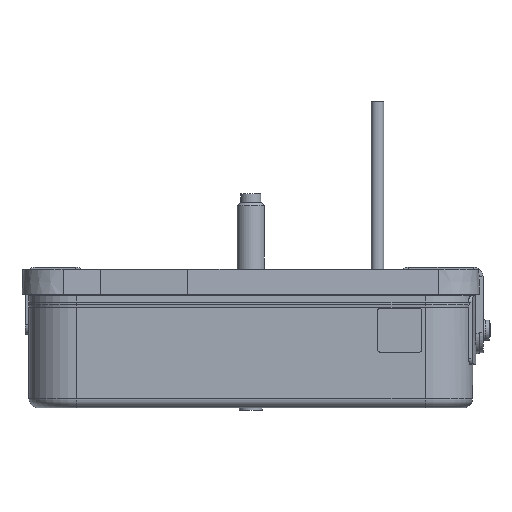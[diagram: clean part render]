
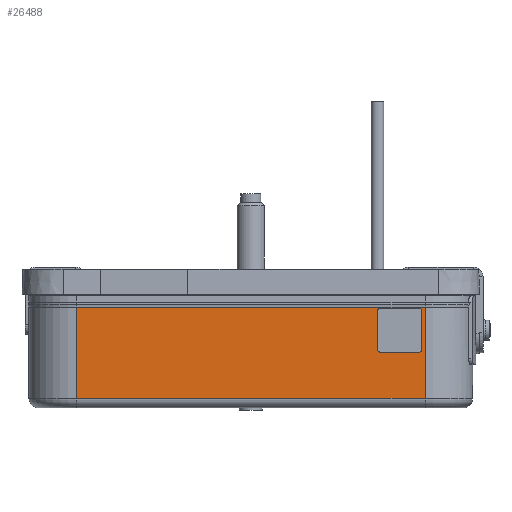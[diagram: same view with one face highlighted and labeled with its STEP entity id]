
A CAD part, left-side view. The second image highlights one B-rep face of the part: STEP entity #26488.
In plain terms, the highlighted planar face has unit normal (-1, 0, 0).
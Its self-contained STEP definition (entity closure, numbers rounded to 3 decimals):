
#1537=FACE_BOUND('',#5088,.T.);
#3025=CIRCLE('',#27604,0.254);
#3027=CIRCLE('',#27608,0.254);
#3029=CIRCLE('',#27612,0.254);
#3031=CIRCLE('',#27616,0.254);
#3637=FACE_OUTER_BOUND('',#5087,.T.);
#5087=EDGE_LOOP('',(#19446,#19447,#19448,#19449));
#5088=EDGE_LOOP('',(#19450,#19451,#19452,#19453,#19454,#19455,#19456,#19457));
#6282=LINE('',#33685,#8885);
#6287=LINE('',#33698,#8890);
#6291=LINE('',#33710,#8894);
#6295=LINE('',#33722,#8898);
#6947=LINE('',#35807,#9550);
#6955=LINE('',#35834,#9558);
#6956=LINE('',#35837,#9559);
#6957=LINE('',#35838,#9560);
#8885=VECTOR('',#28764,10.);
#8890=VECTOR('',#28777,10.);
#8894=VECTOR('',#28789,10.);
#8898=VECTOR('',#28801,10.);
#9550=VECTOR('',#30391,10.);
#9558=VECTOR('',#30423,10.);
#9559=VECTOR('',#30426,10.);
#9560=VECTOR('',#30427,10.);
#11488=VERTEX_POINT('',#33682);
#11489=VERTEX_POINT('',#33684);
#11491=VERTEX_POINT('',#33690);
#11493=VERTEX_POINT('',#33696);
#11495=VERTEX_POINT('',#33702);
#11497=VERTEX_POINT('',#33708);
#11499=VERTEX_POINT('',#33714);
#11501=VERTEX_POINT('',#33720);
#12057=VERTEX_POINT('',#35800);
#12059=VERTEX_POINT('',#35806);
#12066=VERTEX_POINT('',#35832);
#12067=VERTEX_POINT('',#35836);
#13989=EDGE_CURVE('',#11489,#11488,#6282,.T.);
#13993=EDGE_CURVE('',#11488,#11491,#3025,.T.);
#13996=EDGE_CURVE('',#11491,#11493,#6287,.T.);
#13999=EDGE_CURVE('',#11493,#11495,#3027,.T.);
#14002=EDGE_CURVE('',#11495,#11497,#6291,.T.);
#14005=EDGE_CURVE('',#11497,#11499,#3029,.T.);
#14008=EDGE_CURVE('',#11499,#11501,#6295,.T.);
#14010=EDGE_CURVE('',#11501,#11489,#3031,.T.);
#14850=EDGE_CURVE('',#12057,#12059,#6947,.T.);
#14865=EDGE_CURVE('',#12059,#12066,#6955,.T.);
#14866=EDGE_CURVE('',#12067,#12066,#6956,.T.);
#14867=EDGE_CURVE('',#12067,#12057,#6957,.T.);
#19446=ORIENTED_EDGE('',*,*,#14866,.T.);
#19447=ORIENTED_EDGE('',*,*,#14865,.F.);
#19448=ORIENTED_EDGE('',*,*,#14850,.F.);
#19449=ORIENTED_EDGE('',*,*,#14867,.F.);
#19450=ORIENTED_EDGE('',*,*,#13989,.T.);
#19451=ORIENTED_EDGE('',*,*,#13993,.T.);
#19452=ORIENTED_EDGE('',*,*,#13996,.T.);
#19453=ORIENTED_EDGE('',*,*,#13999,.T.);
#19454=ORIENTED_EDGE('',*,*,#14002,.T.);
#19455=ORIENTED_EDGE('',*,*,#14005,.T.);
#19456=ORIENTED_EDGE('',*,*,#14008,.T.);
#19457=ORIENTED_EDGE('',*,*,#14010,.T.);
#25572=PLANE('',#28095);
#26488=ADVANCED_FACE('',(#3637,#1537),#25572,.T.);
#27604=AXIS2_PLACEMENT_3D('',#33692,#28771,#28772);
#27608=AXIS2_PLACEMENT_3D('',#33704,#28783,#28784);
#27612=AXIS2_PLACEMENT_3D('',#33716,#28795,#28796);
#27616=AXIS2_PLACEMENT_3D('',#33725,#28806,#28807);
#28095=AXIS2_PLACEMENT_3D('',#35835,#30424,#30425);
#28764=DIRECTION('',(0.,1.,0.));
#28771=DIRECTION('center_axis',(1.,0.,0.));
#28772=DIRECTION('ref_axis',(0.,0.,1.));
#28777=DIRECTION('',(0.,0.,1.));
#28783=DIRECTION('center_axis',(1.,0.,0.));
#28784=DIRECTION('ref_axis',(0.,-1.,0.));
#28789=DIRECTION('',(0.,-1.,0.));
#28795=DIRECTION('center_axis',(1.,0.,0.));
#28796=DIRECTION('ref_axis',(0.,0.,
-1.));
#28801=DIRECTION('',(0.,0.,-1.));
#28806=DIRECTION('center_axis',(1.,0.,0.));
#28807=DIRECTION('ref_axis',(0.,1.,0.));
#30391=DIRECTION('',(0.,1.,0.));
#30423=DIRECTION('',(0.,0.,1.));
#30424=DIRECTION('center_axis',(-1.,0.,0.));
#30425=DIRECTION('ref_axis',(0.,1.,0.));
#30426=DIRECTION('',(0.,1.,0.));
#30427=DIRECTION('',(0.,0.,-1.));
#33682=CARTESIAN_POINT('',(2.342,-17.319,-9.995));
#33684=CARTESIAN_POINT('',(2.342,-20.367,-9.995));
#33685=CARTESIAN_POINT('',(2.342,-21.002,-9.995));
#33690=CARTESIAN_POINT('',(2.342,-17.065,-9.741));
#33692=CARTESIAN_POINT('Origin',(2.342,-17.319,-9.741));
#33696=CARTESIAN_POINT('',(2.342,-17.065,-6.693));
#33698=CARTESIAN_POINT('',(2.342,-17.065,-6.325));
#33702=CARTESIAN_POINT('',(2.342,-17.319,-6.439));
#33704=CARTESIAN_POINT('Origin',(2.342,-17.319,-6.693));
#33708=CARTESIAN_POINT('',(2.342,-20.367,-6.439));
#33710=CARTESIAN_POINT('',(2.342,-22.526,-6.439));
#33714=CARTESIAN_POINT('',(2.342,-20.621,-6.693));
#33716=CARTESIAN_POINT('Origin',(2.342,-20.367,-6.693));
#33720=CARTESIAN_POINT('',(2.342,-20.621,-9.741));
#33722=CARTESIAN_POINT('',(2.342,-20.621,-7.849));
#33725=CARTESIAN_POINT('Origin',(2.342,-20.367,-9.741));
#35800=CARTESIAN_POINT('',(2.342,-20.875,-13.678));
#35806=CARTESIAN_POINT('',(2.342,7.065,-13.678));
#35807=CARTESIAN_POINT('',(2.342,-15.795,-13.678));
#35832=CARTESIAN_POINT('',(2.342,7.065,-6.363));
#35834=CARTESIAN_POINT('',(2.342,7.065,-5.956));
#35835=CARTESIAN_POINT('Origin',(2.342,-24.685,-5.956));
#35836=CARTESIAN_POINT('',(2.342,-20.875,-6.363));
#35837=CARTESIAN_POINT('',(2.342,-15.795,-6.363));
#35838=CARTESIAN_POINT('',(2.342,-20.875,-5.956));
